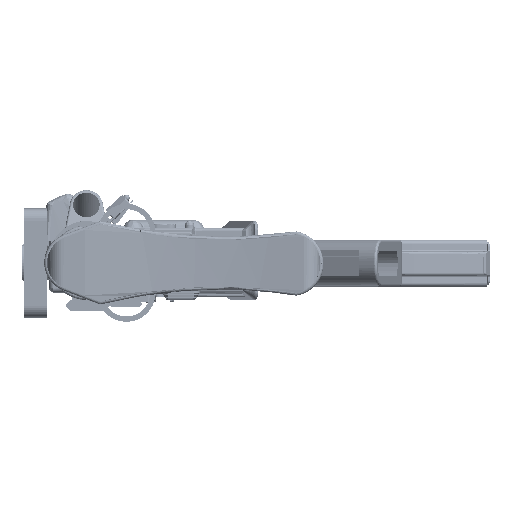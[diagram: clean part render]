
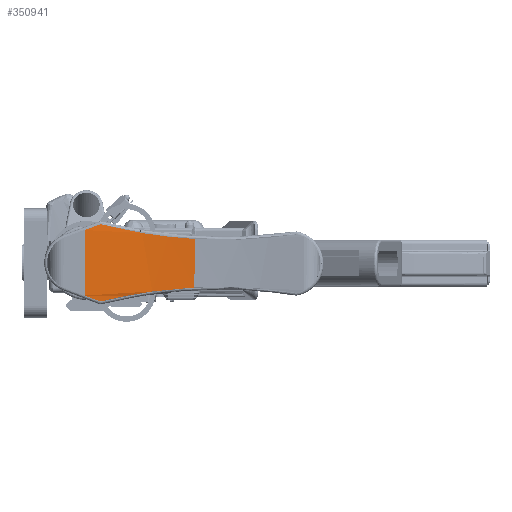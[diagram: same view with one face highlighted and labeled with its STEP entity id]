
A CAD part, front view. The second image highlights one B-rep face of the part: STEP entity #350941.
In plain terms, the highlighted cylindrical face has radius 385.902 mm (diameter 771.804 mm), a partial arc.
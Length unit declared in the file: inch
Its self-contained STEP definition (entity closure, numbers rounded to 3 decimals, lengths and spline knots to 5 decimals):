
#10709 = EDGE_LOOP ( 'NONE', ( #315792, #664385, #293412, #258983, #132700, #139236 ) ) ;
#15196 = VERTEX_POINT ( 'NONE', #715944 ) ;
#16056 = EDGE_CURVE ( 'NONE', #691986, #521312, #628913, .T. ) ;
#16088 = CARTESIAN_POINT ( 'NONE',  ( 3.19785, 0.39249, 1.29296 ) ) ;
#31213 = VERTEX_POINT ( 'NONE', #331553 ) ;
#34453 = FACE_OUTER_BOUND ( 'NONE', #10709, .T. ) ;
#40343 = CARTESIAN_POINT ( 'NONE',  ( 3.30153, 1.66763, 1.47518 ) ) ;
#47677 = CARTESIAN_POINT ( 'NONE',  ( 3.31403, 1.76587, 0.13201 ) ) ;
#48650 = CARTESIAN_POINT ( 'NONE',  ( 3.18641, -0.20176, 0.32884 ) ) ;
#53514 = EDGE_CURVE ( 'NONE', #15196, #691986, #408943, .T. ) ;
#72416 = CARTESIAN_POINT ( 'NONE',  ( 3.20823, 0.61568, 1.32253 ) ) ;
#86755 = DIRECTION ( 'NONE',  ( 0., 0., 1. ) ) ;
#88148 = CARTESIAN_POINT ( 'NONE',  ( 3.28998, 1.56926, 0.05758 ) ) ;
#96729 = CARTESIAN_POINT ( 'NONE',  ( 3.3275, 1.86399, 1.40084 ) ) ;
#128763 = CARTESIAN_POINT ( 'NONE',  ( 3.25598, 1.27956, 1.43886 ) ) ;
#132700 = ORIENTED_EDGE ( 'NONE', *, *, #467071, .T. ) ;
#139236 = ORIENTED_EDGE ( 'NONE', *, *, #216215, .F. ) ;
#216215 = EDGE_CURVE ( 'NONE', #717217, #31213, #470682, .T. ) ;
#244139 = DIRECTION ( 'NONE',  ( 0., 0., -1. ) ) ;
#256727 = B_SPLINE_CURVE_WITH_KNOTS ( 'NONE', 3,
 ( #569853, #628510, #687213, #351765, #16088, #408102, #72416, #464502, #128763, #520728 ),
 .UNSPECIFIED., .F., .F.,
 ( 4, 2, 2, 2, 4 ),
 ( 0.04886, 0.06016, 0.0658, 0.07145, 0.09405 ),
 .UNSPECIFIED. ) ;
#258983 = ORIENTED_EDGE ( 'NONE', *, *, #53514, .F. ) ;
#268053 = VECTOR ( 'NONE', #401712, 39.37008 ) ;
#271683 = CARTESIAN_POINT ( 'NONE',  ( 3.25575, 1.27757, 0.13165 ) ) ;
#273097 = CARTESIAN_POINT ( 'NONE',  ( 3.28998, 1.56926, 0.05758 ) ) ;
#279572 = EDGE_CURVE ( 'NONE', #668536, #521312, #566066, .T. ) ;
#284685 = CARTESIAN_POINT ( 'NONE',  ( 3.18641, -0.20176, 0.32884 ) ) ;
#293412 = ORIENTED_EDGE ( 'NONE', *, *, #16056, .F. ) ;
#315792 = ORIENTED_EDGE ( 'NONE', *, *, #726822, .F. ) ;
#331553 = CARTESIAN_POINT ( 'NONE',  ( 3.3275, 1.86399, 1.40084 ) ) ;
#350941 = ADVANCED_FACE ( 'NONE', ( #34453 ), #726827, .F. ) ;
#351765 = CARTESIAN_POINT ( 'NONE',  ( 3.19512, 0.31815, 1.28433 ) ) ;
#366535 = CARTESIAN_POINT ( 'NONE',  ( 3.3275, 1.86399, 0.16916 ) ) ;
#376107 = CARTESIAN_POINT ( 'NONE',  ( 3.28998, 1.56926, 1.51242 ) ) ;
#384412 = CARTESIAN_POINT ( 'NONE',  ( 3.18641, 0.09688, 0.3123 ) ) ;
#401712 = DIRECTION ( 'NONE',  ( 0., 0., -1. ) ) ;
#404693 = LINE ( 'NONE', #478754, #536101 ) ;
#408102 = CARTESIAN_POINT ( 'NONE',  ( 3.2044, 0.54124, 1.31205 ) ) ;
#408943 =( BOUNDED_CURVE ( )  B_SPLINE_CURVE ( 3, ( #366535, #47677, #608734, #273097 ),
 .UNSPECIFIED., .F., .F. ) 
 B_SPLINE_CURVE_WITH_KNOTS ( ( 4, 4 ),
 ( 4.576, 4.59556 ),
 .UNSPECIFIED. ) 
 CURVE ( )  GEOMETRIC_REPRESENTATION_ITEM ( )  RATIONAL_B_SPLINE_CURVE ( ( 1., 1., 1., 1. ) ) 
 REPRESENTATION_ITEM ( '' )  );
#410719 = DIRECTION ( 'NONE',  ( -1., 0., 0. ) ) ;
#423425 = AXIS2_PLACEMENT_3D ( 'NONE', #579743, #244139, #410719 ) ;
#432404 = CARTESIAN_POINT ( 'NONE',  ( 3.31403, 1.76587, 1.43799 ) ) ;
#464502 = CARTESIAN_POINT ( 'NONE',  ( 3.23003, 0.98644, 1.37929 ) ) ;
#467071 = EDGE_CURVE ( 'NONE', #15196, #31213, #404693, .T. ) ;
#470682 =( BOUNDED_CURVE ( )  B_SPLINE_CURVE ( 3, ( #376107, #40343, #432404, #96729 ),
 .UNSPECIFIED., .F., .F. ) 
 B_SPLINE_CURVE_WITH_KNOTS ( ( 4, 4 ),
 ( 4.82922, 4.84878 ),
 .UNSPECIFIED. ) 
 CURVE ( )  GEOMETRIC_REPRESENTATION_ITEM ( )  RATIONAL_B_SPLINE_CURVE ( ( 1., 1., 1., 1. ) ) 
 REPRESENTATION_ITEM ( '' )  );
#478754 = CARTESIAN_POINT ( 'NONE',  ( 3.3275, 1.86399, 6.2 ) ) ;
#520728 = CARTESIAN_POINT ( 'NONE',  ( 3.28998, 1.56926, 1.51242 ) ) ;
#521312 = VERTEX_POINT ( 'NONE', #284685 ) ;
#536101 = VECTOR ( 'NONE', #86755, 39.37008 ) ;
#566066 = LINE ( 'NONE', #680840, #268053 ) ;
#566420 = CARTESIAN_POINT ( 'NONE',  ( 3.28998, 1.56926, 1.51242 ) ) ;
#569853 = CARTESIAN_POINT ( 'NONE',  ( 3.18641, -0.20176, 1.24116 ) ) ;
#579743 = CARTESIAN_POINT ( 'NONE',  ( 18.37941, -0.20176, 6.2 ) ) ;
#607288 = CARTESIAN_POINT ( 'NONE',  ( 3.22988, 0.98413, 0.19109 ) ) ;
#608734 = CARTESIAN_POINT ( 'NONE',  ( 3.30153, 1.66763, 0.09482 ) ) ;
#628510 = CARTESIAN_POINT ( 'NONE',  ( 3.18641, -0.05334, 1.24938 ) ) ;
#628913 = B_SPLINE_CURVE_WITH_KNOTS ( 'NONE', 3,
 ( #663518, #271683, #607288, #719869, #384412, #48650 ),
 .UNSPECIFIED., .F., .F.,
 ( 4, 2, 4 ),
 ( 0., 0.02276, 0.04551 ),
 .UNSPECIFIED. ) ;
#663518 = CARTESIAN_POINT ( 'NONE',  ( 3.28998, 1.56926, 0.05758 ) ) ;
#664385 = ORIENTED_EDGE ( 'NONE', *, *, #279572, .T. ) ;
#668536 = VERTEX_POINT ( 'NONE', #690180 ) ;
#680840 = CARTESIAN_POINT ( 'NONE',  ( 3.18641, -0.20176, 6.2 ) ) ;
#687213 = CARTESIAN_POINT ( 'NONE',  ( 3.18858, 0.09519, 1.26118 ) ) ;
#690180 = CARTESIAN_POINT ( 'NONE',  ( 3.18641, -0.20176, 1.24116 ) ) ;
#691986 = VERTEX_POINT ( 'NONE', #88148 ) ;
#715944 = CARTESIAN_POINT ( 'NONE',  ( 3.3275, 1.86399, 0.16916 ) ) ;
#717217 = VERTEX_POINT ( 'NONE', #566420 ) ;
#719869 = CARTESIAN_POINT ( 'NONE',  ( 3.19521, 0.39378, 0.28142 ) ) ;
#726822 = EDGE_CURVE ( 'NONE', #668536, #717217, #256727, .T. ) ;
#726827 = CYLINDRICAL_SURFACE ( 'NONE', #423425, 15.193 ) ;
